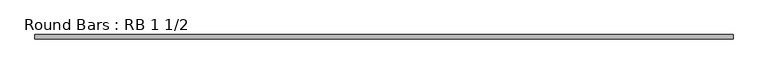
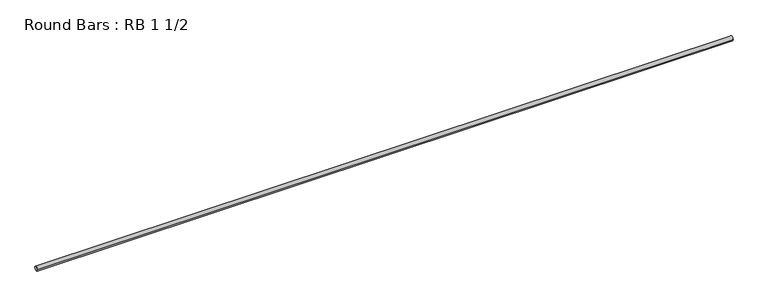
"""IFC4 building model written with IfcOpenShell, lengths in millimetres: member geometry, Round Bars : RB 1 1/2."""

import ifcopenshell
import ifcopenshell.guid

model = None  # the IFC model being written
_history = None  # IfcOwnerHistory: only IFC2X3 demands one
_inside = {}  # id of a spatial element -> (the spatial element, [elements in it])
_under = {}  # id of a project, library or spatial element -> (it, [spatial elements below it])
_declared = {}  # id of a project -> (the project, [libraries it declares])
_typed = {}  # id of a type object -> (the type object, [elements of that type])
_made_of = {}  # id of a material, layer set ... -> (it, [elements and type objects made of it])


def new_model(schema):
    """Start an empty IFC model of exactly this schema.

    Asked for "IFC4X3", IfcOpenShell would pick the latest addendum, in which some entities
    have other attributes; the version numbers below select the first issue.
    IFC2X3 requires an IfcOwnerHistory on every rooted entity: one is made here for all.
    """
    global model, _history
    if schema == "IFC4X3":
        model = ifcopenshell.file(schema_version=(4, 3, 0, 0))
    else:
        model = ifcopenshell.file(schema=schema)
    _inside.clear()
    _under.clear()
    _declared.clear()
    _typed.clear()
    _made_of.clear()
    _history = None
    if model.schema == "IFC2X3":
        org = make("IfcOrganization", Name="unknown")
        user = make(
            "IfcPersonAndOrganization",
            ThePerson=make("IfcPerson", FamilyName="unknown"),
            TheOrganization=org,
        )
        app = make(
            "IfcApplication",
            ApplicationDeveloper=org,
            Version="unknown",
            ApplicationFullName="unknown",
            ApplicationIdentifier="unknown",
        )
        _history = make(
            "IfcOwnerHistory",
            OwningUser=user,
            OwningApplication=app,
            ChangeAction="ADDED",
            CreationDate=0,
        )
    return model


def make(cls, **values):
    """One entity of the class cls with the attributes given. An attribute that is None is left unset."""
    return model.create_entity(
        cls, **{name: value for name, value in values.items() if value is not None}
    )


def rooted(cls, **values):
    """An entity with a GlobalId (a new one), such as an element, a storey or a relation."""
    return make(cls, GlobalId=ifcopenshell.guid.new(), OwnerHistory=_history, **values)


def si_unit(unit_type, name, prefix=None):
    """IfcSIUnit, for example si_unit("LENGTHUNIT", "METRE", prefix="MILLI")."""
    return make("IfcSIUnit", UnitType=unit_type, Prefix=prefix, Name=name)


def assignment(units):
    """IfcUnitAssignment: the units of a project."""
    return None if units is None else make("IfcUnitAssignment", Units=units)


def point(xyz):
    """IfcCartesianPoint."""
    return None if xyz is None else make("IfcCartesianPoint", Coordinates=xyz)


def direction(xyz):
    """IfcDirection."""
    return None if xyz is None else make("IfcDirection", DirectionRatios=xyz)


def frame(location, z_axis=None, x_axis=None):
    """IfcAxis2Placement3D, a coordinate frame: its origin and axes. An axis left out is left unset."""
    return make(
        "IfcAxis2Placement3D",
        Location=point(location),
        Axis=direction(z_axis),
        RefDirection=direction(x_axis),
    )


def frame_2d(location, x_axis=None):
    """IfcAxis2Placement2D, a coordinate frame in the plane: its origin and x axis."""
    return make(
        "IfcAxis2Placement2D", Location=point(location), RefDirection=direction(x_axis)
    )


def origin():
    """The frame at (0, 0, 0) with its axes left unset."""
    return frame((0.0, 0.0, 0.0))


def origin_2d():
    """The frame at (0, 0) in the plane with its x axis left unset."""
    return frame_2d((0.0, 0.0))


def place(relative_to, where):
    """IfcLocalPlacement: puts the frame where relative to a parent placement (None: the world)."""
    return make(
        "IfcLocalPlacement", PlacementRelTo=relative_to, RelativePlacement=where
    )


def context(
    kind, dimensions, precision=None, world=None, true_north=None, identifier=None
):
    """IfcGeometricRepresentationContext, for example the 3D "Model" context."""
    return make(
        "IfcGeometricRepresentationContext",
        ContextIdentifier=identifier,
        ContextType=kind,
        CoordinateSpaceDimension=dimensions,
        Precision=precision,
        WorldCoordinateSystem=world,
        TrueNorth=true_north,
    )


def project(units=None, contexts=None):
    """IfcProject with its units and contexts."""
    return rooted(
        "IfcProject",
        Name="project",
        RepresentationContexts=contexts,
        UnitsInContext=assignment(units),
    )


def spatial(cls, under=None, at=None, **own):
    """A site, building, storey or space (cls), placed at a placement, below another one or the project."""
    s = rooted(cls, ObjectPlacement=at, **own)
    if under is not None:
        _under.setdefault(under.id(), (under, []))[1].append(s)
    return s


def circle_curve(where, radius):
    """IfcCircle in the frame where."""
    return make("IfcCircle", Position=where, Radius=radius)


def trimmed(basis, trim1, trim2, sense, master):
    """IfcTrimmedCurve: the piece of a basis curve between two trims."""
    return make(
        "IfcTrimmedCurve",
        BasisCurve=basis,
        Trim1=trim1,
        Trim2=trim2,
        SenseAgreement=sense,
        MasterRepresentation=master,
    )


def segment(curve, same_sense, transition):
    """IfcCompositeCurveSegment."""
    return make(
        "IfcCompositeCurveSegment",
        Transition=transition,
        SameSense=same_sense,
        ParentCurve=curve,
    )


def composite_curve(segments, self_intersect=None):
    """IfcCompositeCurve: segments joined end to end."""
    return make("IfcCompositeCurve", Segments=segments, SelfIntersect=self_intersect)


def outline(outer, holes=None, kind="AREA"):
    """IfcArbitraryClosedProfileDef: a profile drawn as a closed curve; with holes, ...WithVoids."""
    if holes is None:
        return make("IfcArbitraryClosedProfileDef", ProfileType=kind, OuterCurve=outer)
    return make(
        "IfcArbitraryProfileDefWithVoids",
        ProfileType=kind,
        OuterCurve=outer,
        InnerCurves=holes,
    )


def extrude(swept, where, along, depth):
    """IfcExtrudedAreaSolid: the profile swept, set in the frame where, extruded along a direction by depth."""
    return make(
        "IfcExtrudedAreaSolid",
        SweptArea=swept,
        Position=where,
        ExtrudedDirection=direction(along),
        Depth=depth,
    )


def shape(context_of_items, identifier, shape_type, items):
    """IfcShapeRepresentation: the items that make up one representation, for example the "Body"."""
    return make(
        "IfcShapeRepresentation",
        ContextOfItems=context_of_items,
        RepresentationIdentifier=identifier,
        RepresentationType=shape_type,
        Items=items,
    )


def source(mapping_origin, context_of_items, identifier, shape_type, items):
    """IfcRepresentationMap: a shape defined once, which mapped items show again and again."""
    return make(
        "IfcRepresentationMap",
        MappingOrigin=mapping_origin,
        MappedRepresentation=shape(context_of_items, identifier, shape_type, items),
    )


def transform(
    local_origin,
    x_axis=None,
    y_axis=None,
    z_axis=None,
    scale=None,
    scale2=None,
    scale3=None,
    uniform=True,
):
    """IfcCartesianTransformationOperator3D, or its non-uniform kind. x_axis, y_axis, z_axis: its Axis1, 2, 3."""
    if uniform:
        return make(
            "IfcCartesianTransformationOperator3D",
            Axis1=direction(x_axis),
            Axis2=direction(y_axis),
            LocalOrigin=point(local_origin),
            Scale=scale,
            Axis3=direction(z_axis),
        )
    return make(
        "IfcCartesianTransformationOperator3DnonUniform",
        Axis1=direction(x_axis),
        Axis2=direction(y_axis),
        LocalOrigin=point(local_origin),
        Scale=scale,
        Axis3=direction(z_axis),
        Scale2=scale2,
        Scale3=scale3,
    )


def mapped(mapping_source, mapping_target):
    """IfcMappedItem: shows the shape of a source again, moved by a transform."""
    return make(
        "IfcMappedItem", MappingSource=mapping_source, MappingTarget=mapping_target
    )


def made_of(thing, what):
    """Note that an element or type object is made of a material, layer set ...; save() writes the relation."""
    if what is not None:
        _made_of.setdefault(what.id(), (what, []))[1].append(thing)
    return thing


def element(
    cls,
    number,
    at=None,
    inside=None,
    cuts=None,
    type_object=None,
    material=None,
    context=None,
    identifier="Body",
    shape_type=None,
    held_by="IfcProductDefinitionShape",
    body=None,
    shapes=None,
    **own,
):
    """One element of the class cls, such as IfcWall. Its Tag is "e" and its number.

    at: its placement. inside: the storey or other place that contains it. cuts: it is an
    opening in that element (IfcRelVoidsElement). A single representation is given by context,
    identifier, shape_type and body (its items); several are given by shapes. held_by: the class
    of the entity that holds the representations. save() writes the other relations.
    """
    e = rooted(cls, Tag="e%d" % number, ObjectPlacement=at, **own)
    if body is not None:
        shapes = [shape(context, identifier, shape_type, body)]
    if shapes is not None:
        e.Representation = make(held_by, Representations=shapes)
    if inside is not None:
        _inside.setdefault(inside.id(), (inside, []))[1].append(e)
    if cuts is not None:
        rooted(
            "IfcRelVoidsElement", RelatingBuildingElement=cuts, RelatedOpeningElement=e
        )
    if type_object is not None:
        _typed.setdefault(type_object.id(), (type_object, []))[1].append(e)
    return made_of(e, material)


def aggregate(whole, parts):
    """IfcRelAggregates: a whole, such as a stair, and the parts it consists of."""
    return rooted("IfcRelAggregates", RelatingObject=whole, RelatedObjects=parts)


def save(model, path):
    """Write the relations noted so far, then the file.

    IfcRelAggregates (storeys below a building ...), IfcRelContainedInSpatialStructure (elements
    in a storey), IfcRelDefinesByType, IfcRelAssociatesMaterial and IfcRelDeclares: one each for
    every whole, place, type object, material and project.
    """
    for whole, parts in _under.values():
        aggregate(whole, parts)
    for where, things in _inside.values():
        rooted(
            "IfcRelContainedInSpatialStructure",
            RelatedElements=things,
            RelatingStructure=where,
        )
    for kind, things in _typed.values():
        rooted("IfcRelDefinesByType", RelatedObjects=things, RelatingType=kind)
    for what, things in _made_of.values():
        rooted("IfcRelAssociatesMaterial", RelatedObjects=things, RelatingMaterial=what)
    for by, libraries in _declared.values():
        rooted("IfcRelDeclares", RelatingContext=by, RelatedDefinitions=libraries)
    model.write(path)


def round_bars_rb_1_1_2_2cb97e74(model_context):
    return source(origin(), model_context, "Body", "SweptSolid", [
        extrude(outline(composite_curve([segment(trimmed(circle_curve(origin_2d(), 19.05), [point((19.05, 0.0))], [point((-19.05, 0.0))], False, "CARTESIAN"), True, "CONTINUOUS"), segment(trimmed(circle_curve(origin_2d(), 19.05), [point((-19.05, 0.0))], [point((19.05, 0.0))], False, "CARTESIAN"), True, "CONTINUOUS")], self_intersect=False)), frame((-2833.8709312, 0.0, 0.0), z_axis=(1.0, 0.0, 0.0), x_axis=(0.0, 1.0, 0.0)), (0.0, 0.0, 1.0), 5976.5104285),
    ])


if __name__ == "__main__":
    model = new_model("IFC4")
    model_context = context("Model", 3, world=origin())
    ifc_project = project(units=[si_unit("LENGTHUNIT", "METRE", prefix="MILLI")], contexts=[model_context])
    site = spatial("IfcSite", under=ifc_project)
    building = spatial("IfcBuilding", under=site)
    placement = place(None, origin())
    round_bars_rb_1_1_2_shape = round_bars_rb_1_1_2_2cb97e74(model_context)
    element("IfcMember", 1, ObjectType="Round Bars : RB 1 1/2", at=placement, inside=building, context=model_context, shape_type="MappedRepresentation", body=[
        mapped(round_bars_rb_1_1_2_shape, transform((0.0, 0.0, 0.0), x_axis=(1.0, 0.0, 0.0), y_axis=(0.0, 1.0, 0.0), z_axis=(0.0, 0.0, 1.0))),
    ])
    save(model, "model.ifc")
